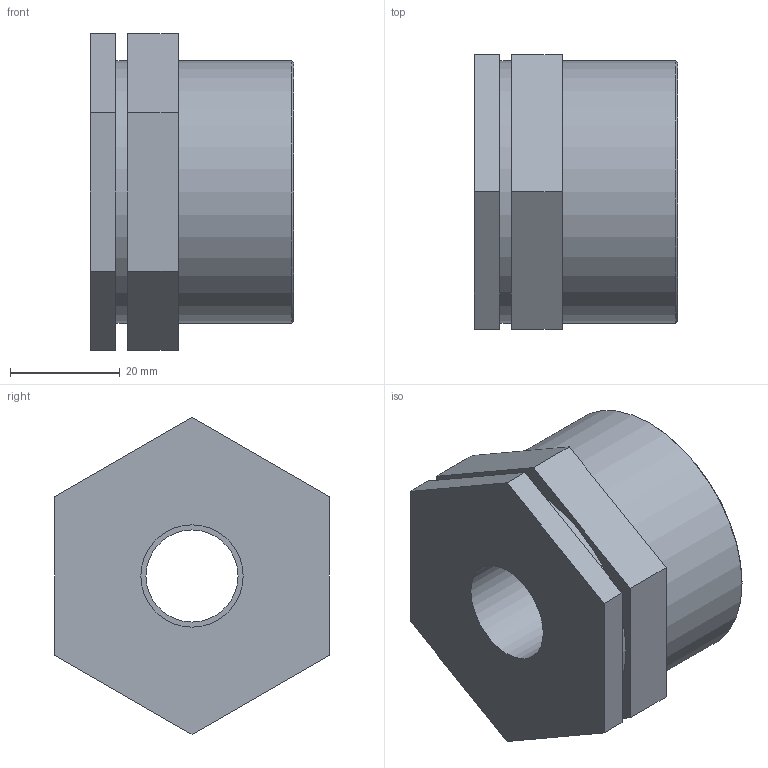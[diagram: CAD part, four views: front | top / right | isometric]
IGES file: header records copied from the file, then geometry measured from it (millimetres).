
Global section: file name: 050207015005_0502070150050A.ipt; native system: Autodesk Inventor 2015; preprocessor: unknown; author: KIM; date: 20170618.093118; units: millimetre
Bounding box: 37 x 50 x 57.73 mm (x, y, z)
Volume: 33284.9 mm3; surface area: 15129.8 mm2
Topology: 1 solids, 1 shells, 28 faces, 66 edges, 46 vertices
Faces by surface type: plane 20, revolution 4, cylinder 3, cone 1
Full cylindrical faces by diameter (mm): 22.357 x1, 47.803 x2
